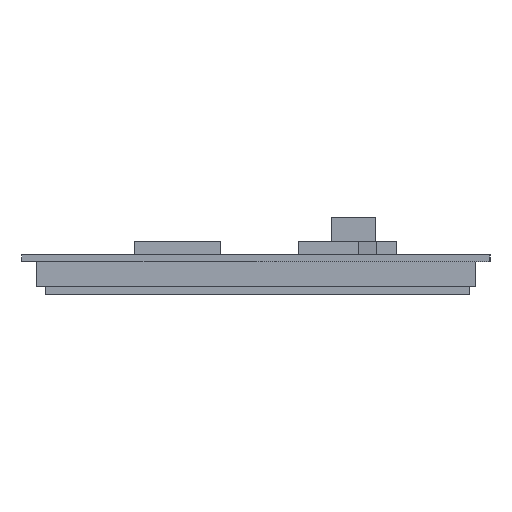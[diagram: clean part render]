
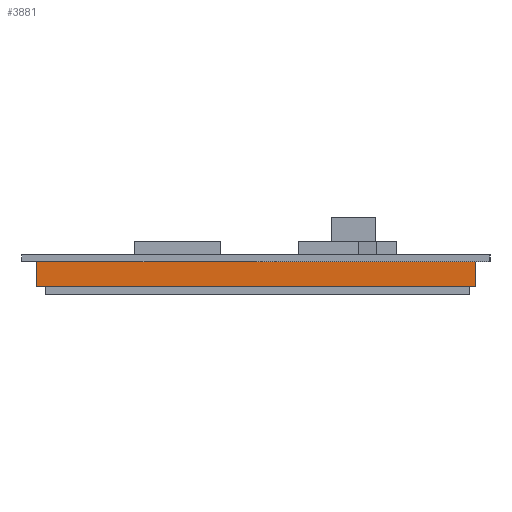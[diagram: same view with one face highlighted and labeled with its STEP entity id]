
A CAD part, left-side view. The second image highlights one B-rep face of the part: STEP entity #3881.
In plain terms, the highlighted planar face has unit normal (-1, 0, 0).
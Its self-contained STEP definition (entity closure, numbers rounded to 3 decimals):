
#70=DIRECTION('',(0.,1.,0.));
#71=VECTOR('',#70,5.08);
#72=CARTESIAN_POINT('',(596.821,466.852,-1.));
#73=LINE('',#72,#71);
#74=DIRECTION('',(0.,1.,0.));
#75=VECTOR('',#74,5.08);
#76=CARTESIAN_POINT('',(596.821,490.22,-1.));
#77=LINE('',#76,#75);
#78=DIRECTION('',(0.,1.,0.));
#79=VECTOR('',#78,5.08);
#80=CARTESIAN_POINT('',(596.821,517.652,-1.));
#81=LINE('',#80,#79);
#250=DIRECTION('',(0.,1.,0.));
#251=VECTOR('',#250,5.011);
#252=CARTESIAN_POINT('',(596.821,461.841,-1.));
#253=LINE('',#252,#251);
#266=DIRECTION('',(0.,1.,0.));
#267=VECTOR('',#266,18.288);
#268=CARTESIAN_POINT('',(596.821,471.932,-1.));
#269=LINE('',#268,#267);
#282=DIRECTION('',(0.,1.,0.));
#283=VECTOR('',#282,22.352);
#284=CARTESIAN_POINT('',(596.821,495.3,-1.));
#285=LINE('',#284,#283);
#298=DIRECTION('',(0.,1.,0.));
#299=VECTOR('',#298,5.009);
#300=CARTESIAN_POINT('',(596.821,522.732,-1.));
#301=LINE('',#300,#299);
#1148=DIRECTION('',(0.,0.,-1.));
#1149=VECTOR('',#1148,3.75);
#1150=CARTESIAN_POINT('',(596.821,527.741,-1.));
#1151=LINE('',#1150,#1149);
#1152=DIRECTION('',(0.,0.,-1.));
#1153=VECTOR('',#1152,3.75);
#1154=CARTESIAN_POINT('',(596.821,461.841,-1.));
#1155=LINE('',#1154,#1153);
#1168=DIRECTION('',(0.,1.,0.));
#1169=VECTOR('',#1168,65.9);
#1170=CARTESIAN_POINT('',(596.821,461.841,-4.75));
#1171=LINE('',#1170,#1169);
#1436=CARTESIAN_POINT('',(596.821,461.841,-4.75));
#1437=VERTEX_POINT('',#1436);
#1438=CARTESIAN_POINT('',(596.821,527.741,-4.75));
#1439=VERTEX_POINT('',#1438);
#1467=CARTESIAN_POINT('',(596.821,461.841,-1.));
#1469=VERTEX_POINT('',#1467);
#1470=CARTESIAN_POINT('',(596.821,466.852,-1.));
#1471=VERTEX_POINT('',#1470);
#1472=CARTESIAN_POINT('',(596.821,471.932,-1.));
#1473=CARTESIAN_POINT('',(596.821,490.22,-1.));
#1474=VERTEX_POINT('',#1472);
#1475=VERTEX_POINT('',#1473);
#1476=CARTESIAN_POINT('',(596.821,495.3,-1.));
#1477=CARTESIAN_POINT('',(596.821,517.652,-1.));
#1478=VERTEX_POINT('',#1476);
#1479=VERTEX_POINT('',#1477);
#1480=CARTESIAN_POINT('',(596.821,522.732,-1.));
#1481=CARTESIAN_POINT('',(596.821,527.741,-1.));
#1482=VERTEX_POINT('',#1480);
#1483=VERTEX_POINT('',#1481);
#3862=CARTESIAN_POINT('',(596.821,461.841,-1.));
#3863=DIRECTION('',(-1.,0.,0.));
#3864=DIRECTION('',(0.,1.,0.));
#3865=AXIS2_PLACEMENT_3D('',#3862,#3863,#3864);
#3866=PLANE('',#3865);
#3867=ORIENTED_EDGE('',*,*,#2015,.F.);
#3869=ORIENTED_EDGE('',*,*,#3868,.T.);
#3871=ORIENTED_EDGE('',*,*,#3870,.T.);
#3872=ORIENTED_EDGE('',*,*,#3841,.F.);
#3873=ORIENTED_EDGE('',*,*,#2038,.F.);
#3874=ORIENTED_EDGE('',*,*,#1888,.F.);
#3875=ORIENTED_EDGE('',*,*,#2030,.F.);
#3876=ORIENTED_EDGE('',*,*,#1865,.F.);
#3877=ORIENTED_EDGE('',*,*,#2023,.F.);
#3878=ORIENTED_EDGE('',*,*,#1843,.F.);
#3879=EDGE_LOOP('',(#3867,#3869,#3871,#3872,#3873,#3874,#3875,#3876,#3877,
#3878));
#3880=FACE_OUTER_BOUND('',#3879,.F.);
#1843=EDGE_CURVE('',#1471,#1474,#73,.T.);
#1865=EDGE_CURVE('',#1475,#1478,#77,.T.);
#1888=EDGE_CURVE('',#1479,#1482,#81,.T.);
#2015=EDGE_CURVE('',#1469,#1471,#253,.T.);
#2023=EDGE_CURVE('',#1474,#1475,#269,.T.);
#2030=EDGE_CURVE('',#1478,#1479,#285,.T.);
#2038=EDGE_CURVE('',#1482,#1483,#301,.T.);
#3841=EDGE_CURVE('',#1483,#1439,#1151,.T.);
#3868=EDGE_CURVE('',#1469,#1437,#1155,.T.);
#3870=EDGE_CURVE('',#1437,#1439,#1171,.T.);
#3881=ADVANCED_FACE('',(#3880),#3866,.T.);
